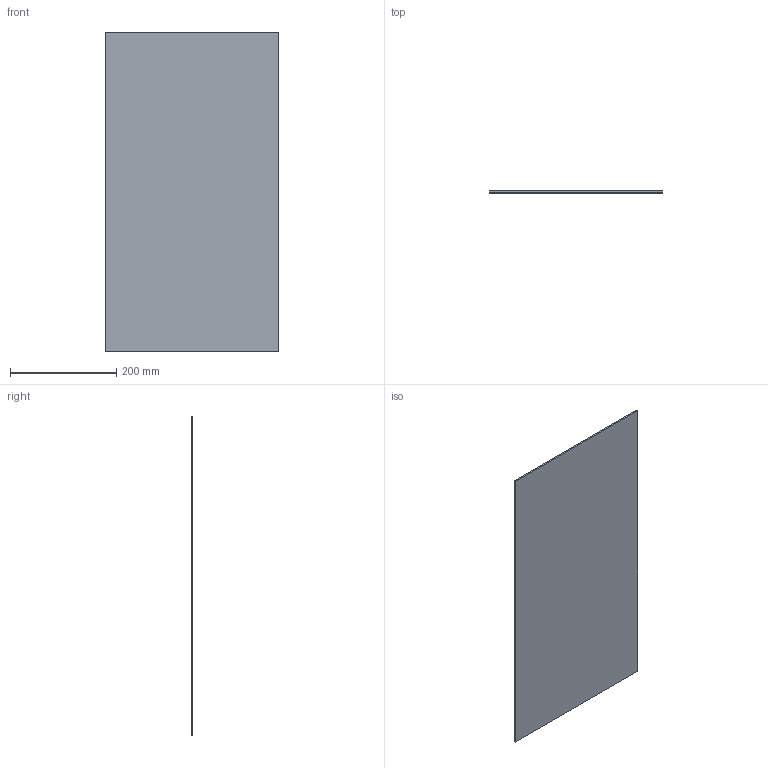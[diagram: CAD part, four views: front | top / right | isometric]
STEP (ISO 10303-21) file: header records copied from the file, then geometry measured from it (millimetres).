
FILE_DESCRIPTION(('Open CASCADE Model'),'2;1');
FILE_NAME('Open CASCADE Shape Model','2026-10-16T18:52:00',('Author'),( 'Open CASCADE'),'Open CASCADE STEP processor 7.8','Open CASCADE 7.8' ,'Unknown');
FILE_SCHEMA(('AUTOMOTIVE_DESIGN { 1 0 10303 214 1 1 1 1 }'));
Length unit declared in the file: millimetre
Products named in the file (1): Open CASCADE STEP translator 7.8 4
Bounding box: 326 x 3 x 600 mm (x, y, z)
Volume: 586800 mm3; surface area: 396756 mm2
Topology: 1 solids, 1 shells, 6 faces, 12 edges, 8 vertices
Faces by surface type: plane 6
Entity records: 322 total; most frequent: CARTESIAN_POINT 51, DIRECTION 50, LINE 36, VECTOR 36, ORIENTED_EDGE 24, PCURVE 24, DEFINITIONAL_REPRESENTATION 24, EDGE_CURVE 12
